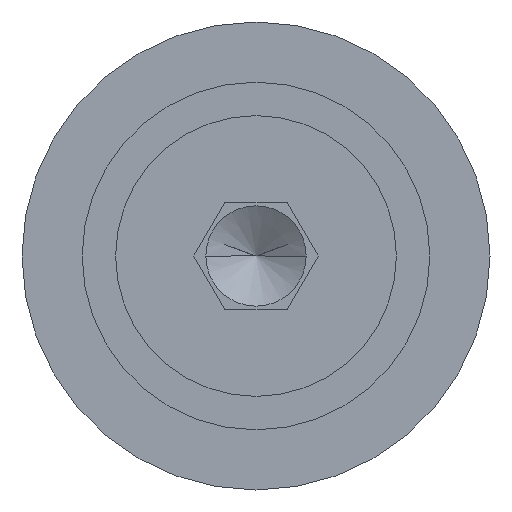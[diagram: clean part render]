
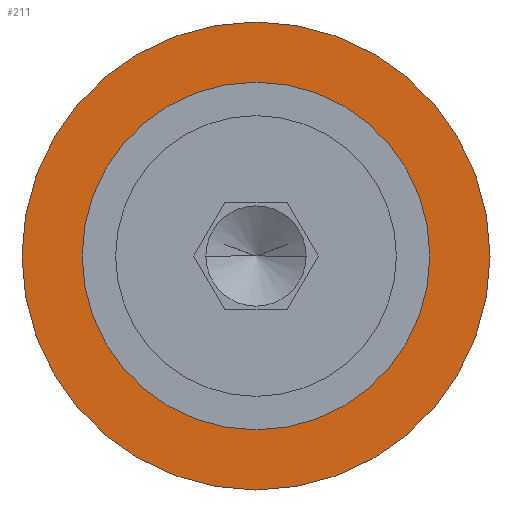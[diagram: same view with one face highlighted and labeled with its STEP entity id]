
A CAD part, left-side view. The second image highlights one B-rep face of the part: STEP entity #211.
In plain terms, the highlighted planar face has unit normal (-1, 0, 0).
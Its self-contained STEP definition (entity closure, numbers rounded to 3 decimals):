
#25 = ORIENTED_EDGE ( 'NONE', *, *, #857, .T. ) ;
#74 = AXIS2_PLACEMENT_3D ( 'NONE', #1494, #2238, #589 ) ;
#135 = CARTESIAN_POINT ( 'NONE',  ( -20., 0., 0. ) ) ;
#176 = EDGE_LOOP ( 'NONE', ( #1240, #1718 ) ) ;
#211 = ADVANCED_FACE ( 'NONE', ( #2240, #695 ), #341, .F. ) ;
#246 = CARTESIAN_POINT ( 'NONE',  ( -20., 0., 0. ) ) ;
#337 = AXIS2_PLACEMENT_3D ( 'NONE', #1907, #1737, #1334 ) ;
#341 = PLANE ( 'NONE',  #337 ) ;
#482 = DIRECTION ( 'NONE',  ( 0., 0., 1. ) ) ;
#564 = AXIS2_PLACEMENT_3D ( 'NONE', #246, #595, #1154 ) ;
#589 = DIRECTION ( 'NONE',  ( 0., 0., 1. ) ) ;
#595 = DIRECTION ( 'NONE',  ( -1., 0., 0. ) ) ;
#607 = CIRCLE ( 'NONE', #74, 12. ) ;
#646 = DIRECTION ( 'NONE',  ( -1., 0., 0. ) ) ;
#695 = FACE_OUTER_BOUND ( 'NONE', #770, .T. ) ;
#698 = VERTEX_POINT ( 'NONE', #1463 ) ;
#770 = EDGE_LOOP ( 'NONE', ( #1784, #25 ) ) ;
#857 = EDGE_CURVE ( 'NONE', #2190, #1127, #1101, .T. ) ;
#865 = DIRECTION ( 'NONE',  ( -1., 0., 0. ) ) ;
#942 = EDGE_CURVE ( 'NONE', #2081, #698, #1912, .T. ) ;
#1011 = EDGE_CURVE ( 'NONE', #1127, #2190, #2098, .T. ) ;
#1101 = CIRCLE ( 'NONE', #564, 17.5 ) ;
#1127 = VERTEX_POINT ( 'NONE', #2251 ) ;
#1154 = DIRECTION ( 'NONE',  ( 0., 0., 1. ) ) ;
#1240 = ORIENTED_EDGE ( 'NONE', *, *, #1278, .F. ) ;
#1278 = EDGE_CURVE ( 'NONE', #698, #2081, #607, .T. ) ;
#1288 = AXIS2_PLACEMENT_3D ( 'NONE', #1962, #646, #482 ) ;
#1334 = DIRECTION ( 'NONE',  ( 0., 0., -1. ) ) ;
#1463 = CARTESIAN_POINT ( 'NONE',  ( -20., 0., 12. ) ) ;
#1493 = CARTESIAN_POINT ( 'NONE',  ( -20., 0., -17.5 ) ) ;
#1494 = CARTESIAN_POINT ( 'NONE',  ( -20., 0., 0. ) ) ;
#1620 = CARTESIAN_POINT ( 'NONE',  ( -20., 0., -12. ) ) ;
#1718 = ORIENTED_EDGE ( 'NONE', *, *, #942, .F. ) ;
#1737 = DIRECTION ( 'NONE',  ( 1., 0., 0. ) ) ;
#1784 = ORIENTED_EDGE ( 'NONE', *, *, #1011, .T. ) ;
#1848 = DIRECTION ( 'NONE',  ( 0., 0., 1. ) ) ;
#1907 = CARTESIAN_POINT ( 'NONE',  ( -20., 17.5, 0. ) ) ;
#1912 = CIRCLE ( 'NONE', #1288, 12. ) ;
#1962 = CARTESIAN_POINT ( 'NONE',  ( -20., 0., 0. ) ) ;
#2081 = VERTEX_POINT ( 'NONE', #1620 ) ;
#2098 = CIRCLE ( 'NONE', #2249, 17.5 ) ;
#2190 = VERTEX_POINT ( 'NONE', #1493 ) ;
#2238 = DIRECTION ( 'NONE',  ( -1., 0., 0. ) ) ;
#2240 = FACE_BOUND ( 'NONE', #176, .T. ) ;
#2249 = AXIS2_PLACEMENT_3D ( 'NONE', #135, #865, #1848 ) ;
#2251 = CARTESIAN_POINT ( 'NONE',  ( -20., 0., 17.5 ) ) ;
